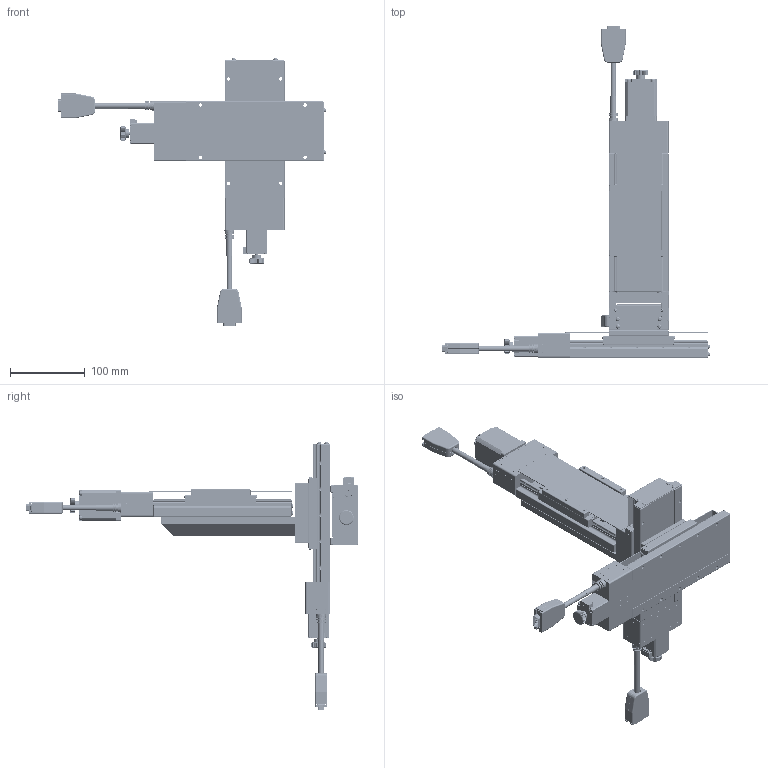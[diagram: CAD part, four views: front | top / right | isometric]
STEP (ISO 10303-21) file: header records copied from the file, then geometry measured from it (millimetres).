
FILE_DESCRIPTION (( 'STEP AP203' ), '1' );
FILE_NAME ('CXYZC8075-S2?N.STEP', '2023-10-03T00:33:58', ( '' ), ( '' ), 'SwSTEP 2.0', 'SolidWorks 2019', '' );
FILE_SCHEMA (( 'CONFIG_CONTROL_DESIGN' ));
Products named in the file (10): CXC8075-S2?N-2; CXYZC8075-S2?N; CXN80-1_GMT; Group1^CZLC8075-S2?N(2023新版)_defeature_GMT; Group1^CXC8075-S2?N-2_GMT; Group1^CXC8075-S2?N-1_GMT; Group2^CZLC8075-S2?N(2023新版)_defeature_GMT; Group2^CXC8075-S2?N-2_GMT; Group2^CXC8075-S2?N-1_GMT; CXC8075-S2?N-1
Assembly tree (11 placements, depth 3):
  CXYZC8075-S2?N
    Group1^CZLC8075-S2?N(2023新版)_defeature_GMT
    Group2^CZLC8075-S2?N(2023新版)_defeature_GMT
    CXN80-1_GMT
    CXC8075-S2?N-1
      Group1^CXC8075-S2?N-1_GMT
      Group2^CXC8075-S2?N-1_GMT
      CXN80-1_GMT
    CXC8075-S2?N-2
      Group1^CXC8075-S2?N-2_GMT
      Group2^CXC8075-S2?N-2_GMT
      CXN80-1_GMT
Bounding box: 358.25 x 444.6 x 358.25 mm (x, y, z)
Volume: 214684.4 mm3; surface area: 580699.6 mm2
Topology: 60 solids, 109 shells, 13274 faces, 34281 edges, 21242 vertices
Faces by surface type: plane 4763, cylinder 4057, cone 1804, torus 1374, bspline 806, sphere 470
Entity records: 439509 total; most frequent: CARTESIAN_POINT 122030, DIRECTION 67277, ORIENTED_EDGE 66854, EDGE_CURVE 33427, AXIS2_PLACEMENT_3D 25997, VERTEX_POINT 20938, LINE 15283, VECTOR 15283
